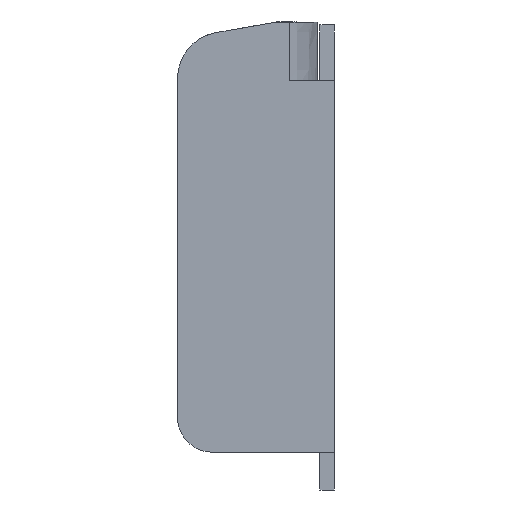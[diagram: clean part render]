
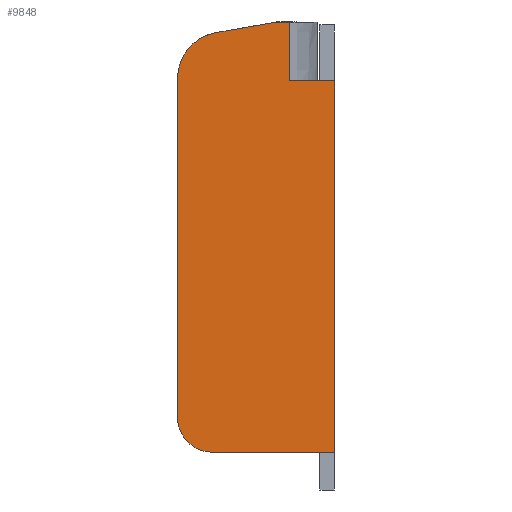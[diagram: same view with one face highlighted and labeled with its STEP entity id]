
A CAD part, left-side view. The second image highlights one B-rep face of the part: STEP entity #9848.
In plain terms, the highlighted planar face has unit normal (-1, 0, 0).
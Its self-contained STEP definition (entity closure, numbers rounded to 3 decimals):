
#88=DIRECTION('',(0.,0.,1.));
#89=VECTOR('',#88,5.829);
#90=CARTESIAN_POINT('',(-1.5,55.7,-6.8));
#91=LINE('',#90,#89);
#2563=DIRECTION('',(0.,0.,-1.));
#2564=VECTOR('',#2563,6.4);
#2565=CARTESIAN_POINT('',(-1.5,53.,-1.));
#2566=LINE('',#2565,#2564);
#2847=DIRECTION('',(0.,-1.,0.));
#2848=VECTOR('',#2847,2.1);
#2849=CARTESIAN_POINT('',(-1.5,55.1,-7.4));
#2850=LINE('',#2849,#2848);
#2851=CARTESIAN_POINT('',(-1.5,55.1,-6.8));
#2852=DIRECTION('',(-1.,0.,0.));
#2853=DIRECTION('',(0.,1.,0.));
#2854=AXIS2_PLACEMENT_3D('',#2851,#2852,#2853);
#2856=CARTESIAN_POINT('',(-1.5,54.9,-0.971));
#2857=DIRECTION('',(-1.,0.,0.));
#2858=DIRECTION('',(0.,0.174,0.985));
#2859=AXIS2_PLACEMENT_3D('',#2856,#2857,#2858);
#2861=DIRECTION('',(0.,0.985,-0.174));
#2862=VECTOR('',#2861,1.055);
#2863=CARTESIAN_POINT('',(-1.5,54.,0.));
#2864=LINE('',#2863,#2862);
#2865=DIRECTION('',(0.,1.,0.));
#2866=VECTOR('',#2865,0.225);
#2867=CARTESIAN_POINT('',(-1.5,53.775,0.));
#2868=LINE('',#2867,#2866);
#3560=DIRECTION('',(0.,0.,1.));
#3561=VECTOR('',#3560,1.);
#3562=CARTESIAN_POINT('',(-1.5,53.775,-1.));
#3563=LINE('',#3562,#3561);
#3572=CARTESIAN_POINT('',(-1.5,53.775,0.));
#3574=DIRECTION('',(0.,-1.,0.));
#3575=VECTOR('',#3574,0.775);
#3576=CARTESIAN_POINT('',(-1.5,53.775,-1.));
#3577=LINE('',#3576,#3575);
#4446=VERTEX_POINT('',#3572);
#4447=CARTESIAN_POINT('',(-1.5,54.,0.));
#4448=VERTEX_POINT('',#4447);
#4503=CARTESIAN_POINT('',(-1.5,55.1,-7.4));
#4504=CARTESIAN_POINT('',(-1.5,53.,-7.4));
#4505=VERTEX_POINT('',#4503);
#4506=VERTEX_POINT('',#4504);
#4531=CARTESIAN_POINT('',(-1.5,55.7,-6.8));
#4532=VERTEX_POINT('',#4531);
#4560=CARTESIAN_POINT('',(-1.5,55.039,-0.183));
#4561=VERTEX_POINT('',#4560);
#4564=CARTESIAN_POINT('',(-1.5,55.7,-0.971));
#4565=VERTEX_POINT('',#4564);
#4566=CARTESIAN_POINT('',(-1.5,53.775,-1.));
#4567=VERTEX_POINT('',#4566);
#4568=CARTESIAN_POINT('',(-1.5,53.,-1.));
#4569=VERTEX_POINT('',#4568);
#9829=CARTESIAN_POINT('',(-1.5,55.7,0.));
#9830=DIRECTION('',(-1.,0.,0.));
#9831=DIRECTION('',(0.,-1.,0.));
#9832=AXIS2_PLACEMENT_3D('',#9829,#9830,#9831);
#9833=PLANE('',#9832);
#9834=ORIENTED_EDGE('',*,*,#6066,.F.);
#9835=ORIENTED_EDGE('',*,*,#6023,.F.);
#9836=ORIENTED_EDGE('',*,*,#5876,.T.);
#9837=ORIENTED_EDGE('',*,*,#5861,.F.);
#9839=ORIENTED_EDGE('',*,*,#9838,.F.);
#9840=ORIENTED_EDGE('',*,*,#5795,.F.);
#9842=ORIENTED_EDGE('',*,*,#9841,.F.);
#9844=ORIENTED_EDGE('',*,*,#9843,.T.);
#9845=ORIENTED_EDGE('',*,*,#9424,.T.);
#9846=EDGE_LOOP('',(#9834,#9835,#9836,#9837,#9839,#9840,#9842,#9844,#9845));
#9847=FACE_OUTER_BOUND('',#9846,.F.);
#2855=CIRCLE('',#2854,0.6);
#2860=CIRCLE('',#2859,0.8);
#5795=EDGE_CURVE('',#4446,#4448,#2868,.T.);
#5861=EDGE_CURVE('',#4561,#4565,#2860,.T.);
#5876=EDGE_CURVE('',#4532,#4565,#91,.T.);
#6023=EDGE_CURVE('',#4532,#4505,#2855,.T.);
#6066=EDGE_CURVE('',#4505,#4506,#2850,.T.);
#9424=EDGE_CURVE('',#4569,#4506,#2566,.T.);
#9838=EDGE_CURVE('',#4448,#4561,#2864,.T.);
#9841=EDGE_CURVE('',#4567,#4446,#3563,.T.);
#9843=EDGE_CURVE('',#4567,#4569,#3577,.T.);
#9848=ADVANCED_FACE('',(#9847),#9833,.T.);
